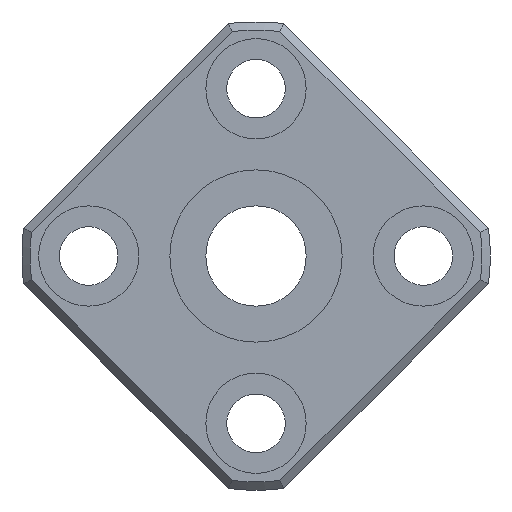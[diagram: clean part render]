
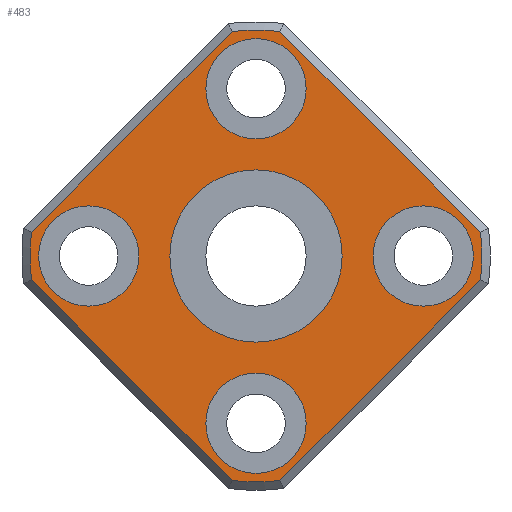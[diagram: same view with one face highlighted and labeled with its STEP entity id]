
A CAD part, left-side view. The second image highlights one B-rep face of the part: STEP entity #483.
In plain terms, the highlighted planar face has unit normal (-1, 0, 0).
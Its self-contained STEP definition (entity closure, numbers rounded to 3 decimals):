
#59=CARTESIAN_POINT('',(0.0,1.425,-13.425));
#60=VERTEX_POINT('',#59);
#68=CARTESIAN_POINT('',(0.0,13.425,-1.425));
#69=VERTEX_POINT('',#68);
#70=CARTESIAN_POINT('',(0.0,1.425,-13.425));
#71=DIRECTION('',(0.0,0.707,0.707));
#72=VECTOR('',#71,16.971);
#73=LINE('',#70,#72);
#74=EDGE_CURVE('',#60,#69,#73,.T.);
#101=CARTESIAN_POINT('',(0.0,13.425,1.425));
#102=VERTEX_POINT('',#101);
#103=CARTESIAN_POINT('',(0.0,0.0,0.0));
#104=DIRECTION('',(1.0,0.0,0.0));
#105=DIRECTION('',(0.0,0.0,1.0));
#106=AXIS2_PLACEMENT_3D('',#103,#104,#105);
#107=CIRCLE('',#106,13.5);
#108=EDGE_CURVE('',#69,#102,#107,.T.);
#134=CARTESIAN_POINT('',(0.0,1.425,13.425));
#135=VERTEX_POINT('',#134);
#136=CARTESIAN_POINT('',(0.0,13.425,1.425));
#137=DIRECTION('',(0.0,-0.707,0.707));
#138=VECTOR('',#137,16.971);
#139=LINE('',#136,#138);
#140=EDGE_CURVE('',#102,#135,#139,.T.);
#167=CARTESIAN_POINT('',(0.0,-1.425,13.425));
#168=VERTEX_POINT('',#167);
#169=CARTESIAN_POINT('',(0.0,0.0,0.0));
#170=DIRECTION('',(1.0,0.0,0.0));
#171=DIRECTION('',(0.0,0.0,1.0));
#172=AXIS2_PLACEMENT_3D('',#169,#170,#171);
#173=CIRCLE('',#172,13.5);
#174=EDGE_CURVE('',#135,#168,#173,.T.);
#200=CARTESIAN_POINT('',(0.0,-13.425,1.425));
#201=VERTEX_POINT('',#200);
#202=CARTESIAN_POINT('',(0.0,-1.425,13.425));
#203=DIRECTION('',(0.0,-0.707,-0.707));
#204=VECTOR('',#203,16.971);
#205=LINE('',#202,#204);
#206=EDGE_CURVE('',#168,#201,#205,.T.);
#233=CARTESIAN_POINT('',(0.0,-13.425,-1.425));
#234=VERTEX_POINT('',#233);
#235=CARTESIAN_POINT('',(0.0,0.0,0.0));
#236=DIRECTION('',(1.0,0.0,0.0));
#237=DIRECTION('',(0.0,0.0,1.0));
#238=AXIS2_PLACEMENT_3D('',#235,#236,#237);
#239=CIRCLE('',#238,13.5);
#240=EDGE_CURVE('',#201,#234,#239,.T.);
#266=CARTESIAN_POINT('',(0.0,-1.425,-13.425));
#267=VERTEX_POINT('',#266);
#268=CARTESIAN_POINT('',(0.0,-13.425,-1.425));
#269=DIRECTION('',(0.0,0.707,-0.707));
#270=VECTOR('',#269,16.971);
#271=LINE('',#268,#270);
#272=EDGE_CURVE('',#234,#267,#271,.T.);
#297=CARTESIAN_POINT('',(0.0,0.0,0.0));
#298=DIRECTION('',(1.0,0.0,0.0));
#299=DIRECTION('',(0.0,0.0,-1.0));
#300=AXIS2_PLACEMENT_3D('',#297,#298,#299);
#301=CIRCLE('',#300,13.5);
#302=EDGE_CURVE('',#267,#60,#301,.T.);
#413=CARTESIAN_POINT('',(0.0,0.0,5.575));
#414=DIRECTION('',(-1.0,0.0,0.0));
#415=DIRECTION('',(0.0,0.0,1.0));
#416=AXIS2_PLACEMENT_3D('',#413,#414,#415);
#417=PLANE('',#416);
#418=ORIENTED_EDGE('',*,*,#74,.F.);
#419=ORIENTED_EDGE('',*,*,#302,.F.);
#420=ORIENTED_EDGE('',*,*,#272,.F.);
#421=ORIENTED_EDGE('',*,*,#240,.F.);
#422=ORIENTED_EDGE('',*,*,#206,.F.);
#423=ORIENTED_EDGE('',*,*,#174,.F.);
#424=ORIENTED_EDGE('',*,*,#140,.F.);
#425=ORIENTED_EDGE('',*,*,#108,.F.);
#426=EDGE_LOOP('',(#418,#419,#420,#421,#422,#423,#424,#425));
#427=FACE_OUTER_BOUND('',#426,.T.);
#428=CARTESIAN_POINT('',(0.0,0.0,5.15));
#429=VERTEX_POINT('',#428);
#430=CARTESIAN_POINT('',(0.0,0.0,0.0));
#431=DIRECTION('',(-1.0,0.0,0.0));
#432=DIRECTION('',(0.0,0.0,1.0));
#433=AXIS2_PLACEMENT_3D('',#430,#431,#432);
#434=CIRCLE('',#433,5.15);
#435=EDGE_CURVE('',#429,#429,#434,.T.);
#436=ORIENTED_EDGE('',*,*,#435,.F.);
#437=EDGE_LOOP('',(#436));
#438=FACE_BOUND('',#437,.T.);
#439=CARTESIAN_POINT('',(0.0,-7.,0.0));
#440=VERTEX_POINT('',#439);
#441=CARTESIAN_POINT('',(0.0,-10.0,0.0));
#442=DIRECTION('',(1.0,0.0,0.0));
#443=DIRECTION('',(0.0,1.0,0.0));
#444=AXIS2_PLACEMENT_3D('',#441,#442,#443);
#445=CIRCLE('',#444,3.);
#446=EDGE_CURVE('',#440,#440,#445,.T.);
#447=ORIENTED_EDGE('',*,*,#446,.T.);
#448=EDGE_LOOP('',(#447));
#449=FACE_BOUND('',#448,.T.);
#450=CARTESIAN_POINT('',(0.0,13.0,0.0));
#451=VERTEX_POINT('',#450);
#452=CARTESIAN_POINT('',(0.0,10.0,0.0));
#453=DIRECTION('',(1.0,0.0,0.0));
#454=DIRECTION('',(0.0,1.0,0.0));
#455=AXIS2_PLACEMENT_3D('',#452,#453,#454);
#456=CIRCLE('',#455,3.);
#457=EDGE_CURVE('',#451,#451,#456,.T.);
#458=ORIENTED_EDGE('',*,*,#457,.T.);
#459=EDGE_LOOP('',(#458));
#460=FACE_BOUND('',#459,.T.);
#461=CARTESIAN_POINT('',(0.0,3.,10.0));
#462=VERTEX_POINT('',#461);
#463=CARTESIAN_POINT('',(0.0,0.0,10.0));
#464=DIRECTION('',(1.0,0.0,0.0));
#465=DIRECTION('',(0.0,1.0,0.0));
#466=AXIS2_PLACEMENT_3D('',#463,#464,#465);
#467=CIRCLE('',#466,3.);
#468=EDGE_CURVE('',#462,#462,#467,.T.);
#469=ORIENTED_EDGE('',*,*,#468,.T.);
#470=EDGE_LOOP('',(#469));
#471=FACE_BOUND('',#470,.T.);
#472=CARTESIAN_POINT('',(0.0,3.,-10.0));
#473=VERTEX_POINT('',#472);
#474=CARTESIAN_POINT('',(0.0,0.0,-10.0));
#475=DIRECTION('',(1.0,0.0,0.0));
#476=DIRECTION('',(0.0,1.0,0.0));
#477=AXIS2_PLACEMENT_3D('',#474,#475,#476);
#478=CIRCLE('',#477,3.);
#479=EDGE_CURVE('',#473,#473,#478,.T.);
#480=ORIENTED_EDGE('',*,*,#479,.T.);
#481=EDGE_LOOP('',(#480));
#482=FACE_BOUND('',#481,.T.);
#483=ADVANCED_FACE('',(#427,#438,#449,#460,#471,#482),#417,.T.);
